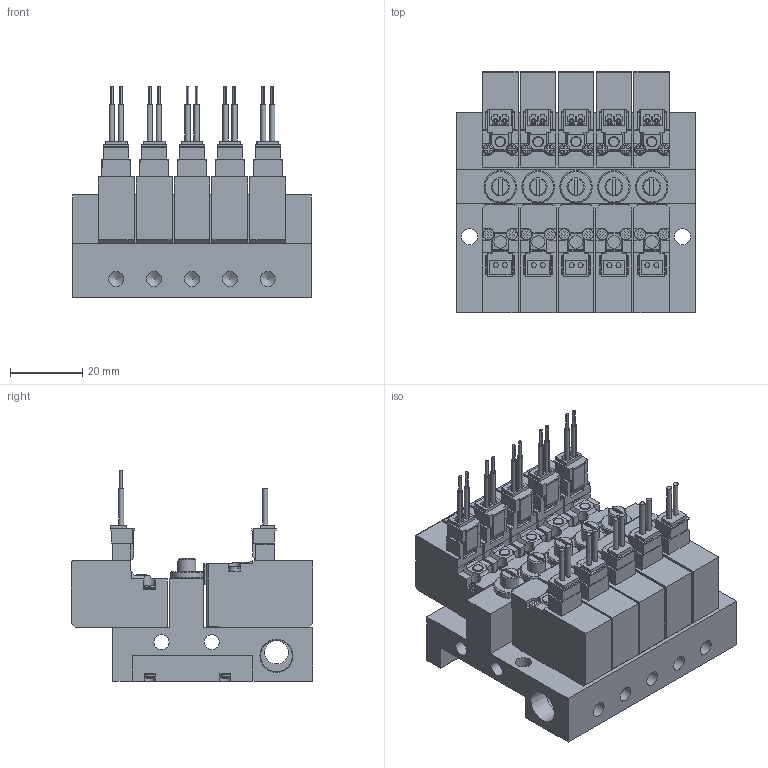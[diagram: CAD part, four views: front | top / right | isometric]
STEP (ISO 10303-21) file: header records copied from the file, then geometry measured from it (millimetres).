
FILE_DESCRIPTION(('STEP AP203'),'1');
FILE_NAME('2-NO(NC)-4EZ-M05.stp','2025-05-09T00:50:51',(' '),(' '),'Spatial InterOp 3D',' ',' ');
FILE_SCHEMA(('CONFIG_CONTROL_DESIGN'));
Length unit declared in the file: millimetre
Products named in the file (57): PV1※2-NO(NC)-4EZ-M05; BODY; PLATE; NEEDLE; BOLT; SOLENOID VALVE VOLTAGE PV; 42; 45; 48; 51; SOLENOID VALVE VOLTAGE PV-NC2
Assembly tree (56 placements, depth 3):
  PV1※2-NO(NC)-4EZ-M05
    BODY
    PLATE
    PLATE
    NEEDLE
    BOLT
    BOLT
    BOLT
    BOLT
    BOLT
    BOLT
    SOLENOID VALVE VOLTAGE PV
      42
      45
      48
      51
    NEEDLE
    SOLENOID VALVE VOLTAGE PV
      42
      45
      48
      51
    NEEDLE
    SOLENOID VALVE VOLTAGE PV
      42
      45
      48
      51
    PLATE
    BOLT
    BOLT
    BOLT
    PLATE
    BOLT
    BOLT
    BOLT
    NEEDLE
    SOLENOID VALVE VOLTAGE PV
      42
      45
      48
      51
    NEEDLE
    SOLENOID VALVE VOLTAGE PV
      42
      45
      48
      51
    PLATE
    BOLT
    BOLT
    BOLT
    SOLENOID VALVE VOLTAGE PV-NC2
    SOLENOID VALVE VOLTAGE PV-NC2
    SOLENOID VALVE VOLTAGE PV-NC2
    SOLENOID VALVE VOLTAGE PV-NC2
    SOLENOID VALVE VOLTAGE PV-NC2
Bounding box: 66 x 66.8 x 58.25 mm (x, y, z)
Volume: 105775.4 mm3; surface area: 53761.8 mm2
Topology: 51 solids, 51 shells, 2020 faces, 5627 edges, 3821 vertices
Faces by surface type: plane 1501, cylinder 357, torus 80, bspline 50, cone 32
Full cylindrical faces by diameter (mm): 1.4 x10, 2 x15, 3 x25, 3.5 x5, 4.2 x12, 4.5 x2, 5 x5, 6.5 x1, 8.797 x2, 9 x5
Entity records: 67450 total; most frequent: CARTESIAN_POINT 12259, DIRECTION 10922, ORIENTED_EDGE 10834, EDGE_CURVE 5417, VERTEX_POINT 3750, LINE 3736, VECTOR 3736, AXIS2_PLACEMENT_3D 3593
